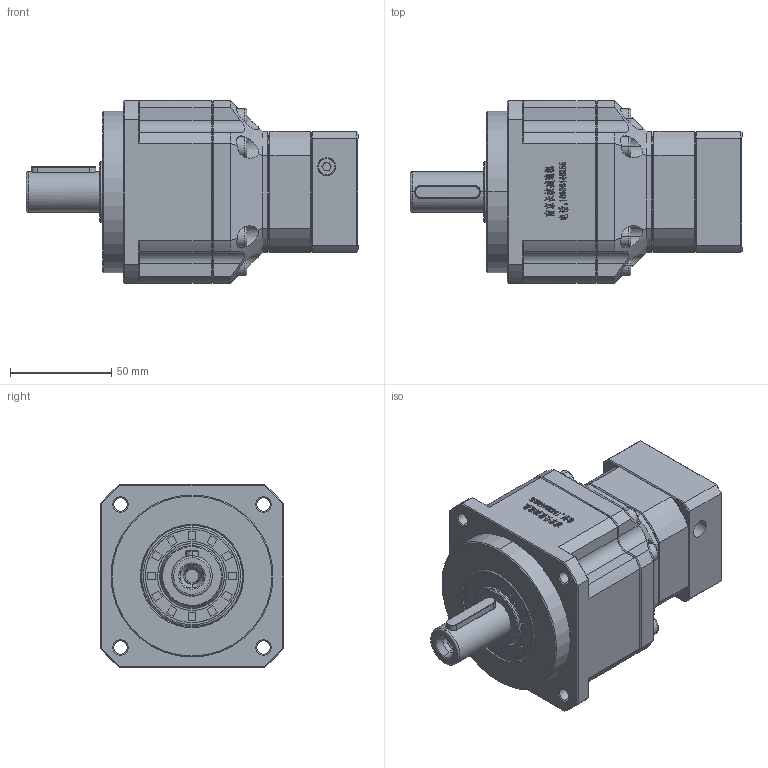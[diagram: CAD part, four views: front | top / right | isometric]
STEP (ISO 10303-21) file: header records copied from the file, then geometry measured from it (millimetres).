
FILE_DESCRIPTION (( 'STEP AP214' ), '1' );
FILE_NAME ('ZPB090-D20-L2-P1-14-50-70-M5.step', '2024-06-07T18:15:10', ( 'Windows 蚚誧' ), ( 'Organization' ), 'SwSTEP 2.0', 'SolidWorks 2016', '' );
FILE_SCHEMA (( 'AUTOMOTIVE_DESIGN' ));
Length unit declared in the file: millimetre
Products named in the file (1): ZPB090-D20-L2-P1-14-50-70-M5
Bounding box: 164 x 90 x 90 mm (x, y, z)
Surface area: 67785.2 mm2 (no closed solid volume)
Topology: 0 solids, 33 shells, 2111 faces, 5630 edges, 3586 vertices
Faces by surface type: plane 1082, bspline 381, cylinder 317, cone 307, torus 24
Entity records: 103937 total; most frequent: CARTESIAN_POINT 49791, ORIENTED_EDGE 11221, DIRECTION 8572, EDGE_CURVE 5630, VERTEX_POINT 3586, VECTOR 3472, LINE 3472, AXIS2_PLACEMENT_3D 2550
